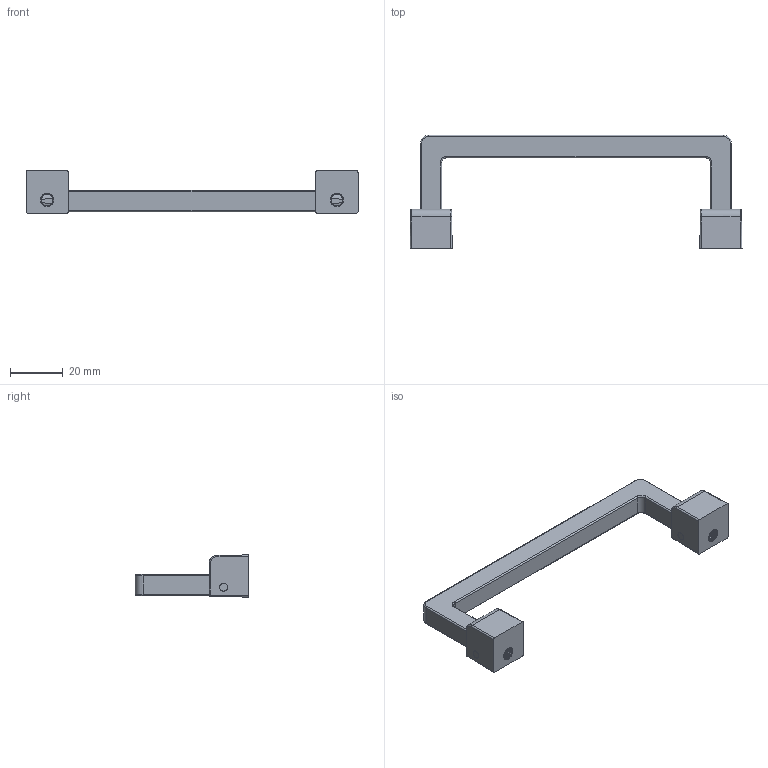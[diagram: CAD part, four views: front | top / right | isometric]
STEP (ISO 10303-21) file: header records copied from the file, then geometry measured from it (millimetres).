
FILE_DESCRIPTION (( 'STEP AP203' ), '1' );
FILE_NAME ('PL039.STEP', '2022-05-25T01:01:11', ( '微软用户' ), ( '微软中国' ), 'SwSTEP 2.0', 'SolidWorks 2018', '' );
FILE_SCHEMA (( 'CONFIG_CONTROL_DESIGN' ));
Length unit declared in the file: millimetre
Products named in the file (1): PL039
Bounding box: 125.78 x 43 x 16 mm (x, y, z)
Volume: 17267.2 mm3; surface area: 9393.7 mm2
Topology: 5 solids, 5 shells, 194 faces, 468 edges, 272 vertices
Faces by surface type: cylinder 114, plane 42, bspline 14, torus 12, sphere 12
Entity records: 7179 total; most frequent: CARTESIAN_POINT 2949, ORIENTED_EDGE 912, DIRECTION 838, EDGE_CURVE 456, AXIS2_PLACEMENT_3D 317, VERTEX_POINT 272, EDGE_LOOP 210, VECTOR 204
